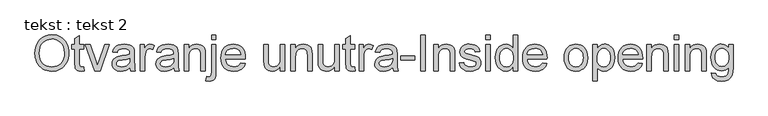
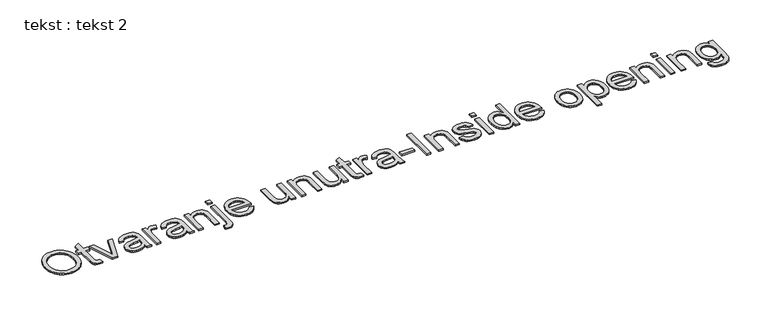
"""IFC4 building model written with IfcOpenShell, lengths in millimetres: proxy geometry, tekst : tekst 2."""

from ifc_helpers import new_model, si_unit, origin, origin_with_axes, place, context, project, spatial, polyline, outline, extrude, source, transform, mapped, element, save


def tekst_tekst_2_4f43fea5(model_context):
    return source(origin(), model_context, "Body", "SweptSolid", [
        extrude(outline(polyline([(-1365.7671405, 247.5300196), (-1361.5824828, 306.4447883), (-1349.0285097, 358.5997253), (-1328.1052212, 403.9948307), (-1298.8126173, 442.6301044), (-1262.9058018, 473.4785425), (-1222.1398782, 495.5131412), (-1176.5148466, 508.7339004), (-1126.0307069, 513.1408201), (-1092.2392128, 511.0714839), (-1060.149173, 504.8634752), (-1029.7605873, 494.5167941), (-1001.0734559, 480.0314405), (-974.8925206, 461.8442744), (-952.0225232, 440.3921556), (-932.4634638, 415.675084), (-916.2153424, 387.6930597), (-903.4467714, 357.0822121), (-894.3263636, 324.4786702), (-888.854119, 289.8824343), (-887.0300374, 253.2935042), (-888.9499216, 216.221729), (-894.7095741, 181.1579763), (-904.3089949, 148.1022462), (-917.748184, 117.0545386), (-934.7090768, 88.8349239), (-954.8736087, 64.2634723), (-978.2417796, 43.3401838), (-1004.8135895, 26.0650585), (-1033.5428741, 12.5453952), (-1063.3834688, 2.8884928), (-1094.3353738, -2.9056486), (-1126.3985889, -4.8370291), (-1160.7802271, -2.7025471), (-1193.2917984, 3.7008989), (-1223.9333029, 14.3733088), (-1252.7047406, 29.3146828), (-1278.8550191, 47.946373), (-1301.633046, 69.6897317), (-1321.0388212, 94.544759), (-1337.0723448, 122.5114549), (-1349.6263179, 152.4670128), (-1358.5934416, 183.2886262), (-1363.9737157, 214.9762951), (-1365.7671405, 247.5300196)]), holes=[polyline([(-1302.9819466, 246.9168829), (-1299.8434533, 205.292568), (-1290.4279735, 168.3434201), (-1274.7355072, 136.0694393), (-1252.7660543, 108.4706254), (-1226.0601207, 86.3670489), (-1196.1582123, 70.5787799), (-1163.060329, 61.1058185), (-1126.7664709, 57.9481647), (-1089.851812, 61.1364754), (-1056.3630541, 70.7014072), (-1026.3001973, 86.6429604), (-999.6632416, 108.9611347), (-977.8547371, 137.1424284), (-962.2772338, 170.6733394), (-952.9307319, 209.5538678), (-949.8152312, 253.7840135), (-955.1495202, 309.3648516), (-971.152387, 357.4041088), (-983.0510702, 378.2929083), (-997.4099644, 396.6908402), (-1014.2290693, 412.5979044), (-1033.5083851, 426.0141009), (-1054.6501036, 436.6635183), (-1077.0564163, 444.2702449), (-1100.7273235, 448.8342809), (-1125.6628249, 450.3556263), (-1160.6959208, 447.4240666), (-1193.1998279, 438.6293877), (-1223.1745463, 423.9715894), (-1250.620076, 403.4506719), (-1273.5283944, 376.0779522), (-1289.891479, 340.8647474), (-1299.7093297, 297.8110577), (-1302.9819466, 246.9168829)])]), origin_with_axes(), (0.0, 0.0, 1.0), 20.0),
        extrude(outline(polyline([(-675.1300082, 55.3729908), (-667.2818589, 1.1717101), (-714.248127, -4.8370291), (-744.3837938, -2.2311983), (-766.8552523, 5.5862941), (-782.7354918, 17.6344294), (-793.0975013, 32.9321891), (-798.7996722, 59.2050949), (-800.7003959, 104.1786688), (-800.7003959, 309.0889401), (-847.7892912, 309.0889401), (-847.7892912, 371.874134), (-800.7003959, 371.874134), (-800.7003959, 461.5147134), (-737.915202, 498.4255403), (-737.915202, 371.874134), (-675.1300082, 371.874134), (-675.1300082, 309.0889401), (-737.915202, 309.0889401), (-737.915202, 106.0180788), (-734.6042641, 73.6444632), (-723.8743725, 62.1788077), (-702.4759032, 57.9481647), (-675.1300082, 55.3729908)])), origin_with_axes(), (0.0, 0.0, 1.0), 20.0),
        extrude(outline(polyline([(-521.8458435, 3.0111201), (-651.5855605, 371.874134), (-585.1215467, 371.874134), (-506.5174271, 150.8996822), (-482.850352, 76.5875192), (-459.6737863, 146.7303529), (-380.5791574, 371.874134), (-314.1151436, 371.874134), (-442.2607052, 3.0111201), (-521.8458435, 3.0111201)])), origin_with_axes(), (0.0, 0.0, 1.0), 20.0),
        extrude(outline(polyline([(-23.7336221, 50.1000155), (-53.7313331, 24.3789327), (-84.6180923, 7.5483314), (-117.0990067, -1.740689), (-151.8791837, -4.8370291), (-179.8343832, -2.9746265), (-204.3483533, 2.6125813), (-225.4210938, 11.9245943), (-243.0526048, 24.9614125), (-256.9746391, 40.8953014), (-266.9189493, 58.8985266), (-272.8855354, 78.9710879), (-274.8743974, 101.1129855), (-271.8700278, 127.1406367), (-262.8569189, 150.7770549), (-248.9540452, 171.0105646), (-231.280381, 186.8294904), (-210.5103767, 198.7856552), (-187.3184826, 207.4308821), (-132.9945746, 216.8731867), (-68.7991665, 226.8060005), (-24.101504, 238.455597), (-23.7336221, 252.4351129), (-28.0562355, 280.4554582), (-41.0240758, 298.7882442), (-54.0992151, 306.728364), (-70.0254398, 312.3998781), (-110.4311456, 316.9370893), (-147.8324818, 313.9173913), (-173.9521034, 304.8582972), (-191.7637233, 288.104338), (-204.2410544, 262.0000447), (-267.0262482, 269.848194), (-256.1277441, 304.1838468), (-239.8642942, 331.1618598), (-216.7183854, 351.7939084), (-185.1725043, 367.091668), (-146.59088, 376.5646294), (-102.3377417, 379.7222832), (-59.8933565, 376.9325114), (-26.2474824, 368.563196), (-0.8789531, 355.9785661), (16.7333974, 340.5428507), (28.4136508, 321.4589722), (35.9858885, 297.9298529), (39.0515718, 242.9928083), (39.0515718, 164.879198), (42.2398824, 55.8021864), (46.9610347, 28.8395019), (54.7478703, 3.0111201), (-8.0373236, 3.0111201), (-18.0927648, 24.8387852), (-23.7336221, 50.1000155)]), holes=[polyline([(-23.7336221, 175.6704032), (-65.9174242, 165.2164232), (-125.0237981, 156.4179121), (-179.0411377, 146.2398436), (-193.0972956, 139.2807425), (-203.5052904, 129.6851538), (-209.9432253, 118.1888414), (-212.0892036, 105.5275694), (-207.4140366, 86.8575582), (-193.3885355, 71.5597986), (-170.3192687, 61.3510732), (-138.5128045, 57.9481647), (-104.7902883, 61.7036268), (-74.9918467, 72.9700129), (-50.8342624, 89.5706879), (-34.0343179, 109.3290167), (-26.5847075, 129.6851538), (-24.101504, 157.8894401), (-23.7336221, 175.6704032)])]), origin_with_axes(), (0.0, 0.0, 1.0), 20.0),
        extrude(outline(polyline([(125.3812133, 3.0111201), (125.3812133, 371.874134), (180.3182579, 371.874134), (180.3182579, 317.3049713), (200.6130813, 348.9428229), (219.3137494, 367.5821773), (238.0757312, 376.6872567), (258.5544956, 379.7222832), (289.8244652, 374.8785036), (321.5849441, 360.3471648), (300.6156704, 304.0612195), (278.5427507, 313.7181219), (256.4698309, 316.9370893), (237.7231776, 313.8407492), (220.9692184, 304.5517288), (207.4342267, 289.7751354), (198.3444757, 270.216076), (190.7109243, 235.1446591), (188.1664072, 196.8849316), (188.1664072, 3.0111201), (125.3812133, 3.0111201)])), origin_with_axes(), (0.0, 0.0, 1.0), 20.0),
        extrude(outline(polyline([(596.2701672, 50.1000155), (566.2724561, 24.3789327), (535.385697, 7.5483314), (502.9047825, -1.740689), (468.1246055, -4.8370291), (440.169406, -2.9746265), (415.6554359, 2.6125813), (394.5826954, 11.9245943), (376.9511844, 24.9614125), (363.0291501, 40.8953014), (353.0848399, 58.8985266), (347.1182538, 78.9710879), (345.1293918, 101.1129855), (348.1337614, 127.1406367), (357.1468703, 150.7770549), (371.049744, 171.0105646), (388.7234082, 186.8294904), (409.4934125, 198.7856552), (432.6853066, 207.4308821), (487.0092146, 216.8731867), (551.2046227, 226.8060005), (595.9022852, 238.455597), (596.2701672, 252.4351129), (591.9475537, 280.4554582), (578.9797134, 298.7882442), (565.9045741, 306.728364), (549.9783494, 312.3998781), (509.5726436, 316.9370893), (472.1713074, 313.9173913), (446.0516858, 304.8582972), (428.2400659, 288.104338), (415.7627349, 262.0000447), (352.977541, 269.848194), (363.8760451, 304.1838468), (380.139495, 331.1618598), (403.2854038, 351.7939084), (434.8312849, 367.091668), (473.4129092, 376.5646294), (517.6660475, 379.7222832), (560.1104327, 376.9325114), (593.7563069, 368.563196), (619.1248361, 355.9785661), (636.7371866, 340.5428507), (648.41744, 321.4589722), (655.9896777, 297.9298529), (659.055361, 242.9928083), (659.055361, 164.879198), (662.2436716, 55.8021864), (666.9648239, 28.8395019), (674.7516595, 3.0111201), (611.9664656, 3.0111201), (601.9110244, 24.8387852), (596.2701672, 50.1000155)]), holes=[polyline([(596.2701672, 175.6704032), (554.086365, 165.2164232), (494.9799911, 156.4179121), (440.9626515, 146.2398436), (426.9064936, 139.2807425), (416.4984988, 129.6851538), (410.0605639, 118.1888414), (407.9145856, 105.5275694), (412.5897526, 86.8575582), (426.6152537, 71.5597986), (449.6845205, 61.3510732), (481.4909847, 57.9481647), (515.2135009, 61.7036268), (545.0119425, 72.9700129), (569.1695268, 89.5706879), (585.9694713, 109.3290167), (593.4190817, 129.6851538), (595.9022852, 157.8894401), (596.2701672, 175.6704032)])]), origin_with_axes(), (0.0, 0.0, 1.0), 20.0),
        extrude(outline(polyline([(745.3850025, 3.0111201), (745.3850025, 371.874134), (808.1701964, 371.874134), (808.1701964, 320.3706546), (829.982533, 346.3369921), (856.1787967, 364.884376), (886.7589876, 376.0128064), (921.7231056, 379.7222832), (952.6711784, 376.733242), (981.0134204, 367.7661183), (1004.6498386, 353.9398867), (1021.4804399, 336.3735214), (1032.9001102, 315.1130078), (1040.3037353, 290.204331), (1043.6146733, 229.5038018), (1043.6146733, 3.0111201), (980.8294794, 3.0111201), (980.8294794, 221.0425159), (979.0207263, 253.508102), (973.5944669, 276.5926972), (963.5850109, 293.1320586), (948.0266682, 305.9619432), (928.0843984, 314.1933028), (904.9231611, 316.9370893), (885.8584431, 315.3965835), (868.15029, 310.7750659), (851.7987017, 303.0725366), (836.8036783, 292.2889957), (824.27653, 277.1981697), (815.3285669, 256.5737853), (809.959789, 230.4158426), (808.1701964, 198.7243416), (808.1701964, 3.0111201), (745.3850025, 3.0111201)])), origin_with_axes(), (0.0, 0.0, 1.0), 20.0),
        extrude(outline(polyline([(1050.8496859, -138.5008207), (1064.0934377, -78.7813101), (1092.9108606, -83.3185214), (1109.266281, -80.2068529), (1120.8085786, -70.8718472), (1127.6603808, -49.0901674), (1129.9443148, -8.6384764), (1129.9443148, 371.874134), (1192.7295087, 371.874134), (1192.7295087, -16.7318803), (1188.2842679, -74.3667262), (1182.7277169, -95.4586273), (1174.9485456, -111.4001804), (1161.7967642, -126.5829769), (1144.9048493, -137.4278315), (1124.2728007, -143.9347443), (1099.9006185, -146.1037153), (1074.9459565, -144.2029916), (1050.8496859, -138.5008207)])), origin_with_axes(), (0.0, 0.0, 1.0), 20.0),
        extrude(outline(polyline([(1129.9443148, 442.507477), (1129.9443148, 505.2926709), (1192.7295087, 505.2926709), (1192.7295087, 442.507477), (1129.9443148, 442.507477)])), origin_with_axes(), (0.0, 0.0, 1.0), 20.0),
        extrude(outline(polyline([(1545.16046, 112.8852093), (1606.7193806, 105.0370601), (1597.2809081, 80.3813022), (1584.5391619, 58.6532719), (1568.494142, 39.8529691), (1549.1458483, 23.9803938), (1526.6935503, 11.3727713), (1501.3365174, 2.3673266), (1473.0747495, -3.0359402), (1441.9082467, -4.8370291), (1402.9510763, -1.7291927), (1368.2398772, 7.5943166), (1337.7746495, 23.1334988), (1311.5553931, 44.8883539), (1290.4711563, 72.2534094), (1275.4109871, 104.6231929), (1266.3748856, 141.9977043), (1263.3628517, 184.3769437), (1266.4055424, 228.1932222), (1275.5336144, 266.8131675), (1290.7470678, 300.2367796), (1312.0459024, 328.4640585), (1338.1961809, 350.8895318), (1367.9639657, 366.907727), (1401.3492568, 376.5186441), (1438.3520541, 379.7222832), (1474.1630671, 376.5263084), (1506.548179, 366.9383839), (1535.5073898, 350.9585097), (1561.0406995, 328.5866859), (1581.8835138, 300.4207206), (1596.7712383, 267.0584222), (1605.703873, 228.4997905), (1608.6814179, 184.7448257), (1608.3135359, 167.822254), (1326.1480456, 167.822254), (1329.7847124, 142.7679572), (1337.0158929, 120.8253291), (1347.841587, 101.9943695), (1362.2617948, 86.2750784), (1379.4794386, 73.8820537), (1398.6974407, 65.0298931), (1419.9158012, 59.7185968), (1443.13452, 57.9481647), (1476.5504679, 61.2284459), (1504.6934406, 71.0692892), (1527.5634379, 88.0838315), (1545.16046, 112.8852093)]), holes=[polyline([(1326.1480456, 230.6074478), (1545.896224, 230.6074478), (1537.4042813, 263.778141), (1520.757621, 287.5065297), (1503.6357798, 300.3823996), (1484.1533625, 309.5794494), (1462.310369, 315.0976794), (1438.1067994, 316.9370893), (1395.7850416, 311.0663058), (1377.3717813, 303.7278265), (1360.7902668, 293.4539553), (1346.8758967, 280.7198733), (1336.4640699, 266.0007614), (1329.5547861, 249.2966196), (1326.1480456, 230.6074478)])]), origin_with_axes(), (0.0, 0.0, 1.0), 20.0),
        extrude(outline(polyline([(2103.1148194, 3.0111201), (2103.1148194, 66.4094506), (2080.3981062, 35.2391157), (2053.9412594, 12.9745908), (2023.7442789, -0.3841241), (1989.8071649, -4.8370291), (1959.226974, -1.7100321), (1930.7621047, 7.6709587), (1906.8804318, 21.7731019), (1890.0498305, 39.0635557), (1878.7221308, 60.0634862), (1871.3491624, 85.2940597), (1867.6703425, 143.6646696), (1867.6703425, 371.874134), (1930.4555363, 371.874134), (1930.4555363, 173.2178566), (1934.2569836, 109.2063894), (1943.4080482, 87.8539053), (1959.0890183, 71.6211122), (1980.2575614, 61.3664016), (2005.8713453, 57.9481647), (2032.9566572, 61.4430437), (2058.2945297, 71.9276806), (2079.1871613, 88.4363851), (2092.9367509, 110.0034671), (2100.5703023, 139.5413256), (2103.1148194, 179.9623598), (2103.1148194, 371.874134), (2165.9000132, 371.874134), (2165.9000132, 3.0111201), (2103.1148194, 3.0111201)])), origin_with_axes(), (0.0, 0.0, 1.0), 20.0),
        extrude(outline(polyline([(2252.2296548, 3.0111201), (2252.2296548, 371.874134), (2315.0148486, 371.874134), (2315.0148486, 320.3706546), (2336.8271852, 346.3369921), (2363.023449, 364.884376), (2393.6036398, 376.0128064), (2428.5677578, 379.7222832), (2459.5158306, 376.733242), (2487.8580727, 367.7661183), (2511.4944909, 353.9398867), (2528.3250922, 336.3735214), (2539.7447624, 315.1130078), (2547.1483876, 290.204331), (2550.4593255, 229.5038018), (2550.4593255, 3.0111201), (2487.6741317, 3.0111201), (2487.6741317, 221.0425159), (2485.8653785, 253.508102), (2480.4391191, 276.5926972), (2470.4296632, 293.1320586), (2454.8713205, 305.9619432), (2434.9290506, 314.1933028), (2411.7678133, 316.9370893), (2392.7030954, 315.3965835), (2374.9949422, 310.7750659), (2358.643354, 303.0725366), (2343.6483306, 292.2889957), (2331.1211822, 277.1981697), (2322.1732191, 256.5737853), (2316.8044412, 230.4158426), (2315.0148486, 198.7243416), (2315.0148486, 3.0111201), (2252.2296548, 3.0111201)])), origin_with_axes(), (0.0, 0.0, 1.0), 20.0),
        extrude(outline(polyline([(2872.233444, 3.0111201), (2872.233444, 66.4094506), (2849.5167308, 35.2391157), (2823.059884, 12.9745908), (2792.8629035, -0.3841241), (2758.9257895, -4.8370291), (2728.3455986, -1.7100321), (2699.8807292, 7.6709587), (2675.9990564, 21.7731019), (2659.1684551, 39.0635557), (2647.8407553, 60.0634862), (2640.467787, 85.2940597), (2636.7889671, 143.6646696), (2636.7889671, 371.874134), (2699.5741609, 371.874134), (2699.5741609, 173.2178566), (2703.3756082, 109.2063894), (2712.5266728, 87.8539053), (2728.2076429, 71.6211122), (2749.376186, 61.3664016), (2774.9899699, 57.9481647), (2802.0752818, 61.4430437), (2827.4131542, 71.9276806), (2848.3057859, 88.4363851), (2862.0553754, 110.0034671), (2869.6889268, 139.5413256), (2872.233444, 179.9623598), (2872.233444, 371.874134), (2935.0186378, 371.874134), (2935.0186378, 3.0111201), (2872.233444, 3.0111201)])), origin_with_axes(), (0.0, 0.0, 1.0), 20.0),
        extrude(outline(polyline([(3154.7668163, 55.3729908), (3162.6149655, 1.1717101), (3115.6486975, -4.8370291), (3085.5130307, -2.2311983), (3063.0415721, 5.5862941), (3047.1613327, 17.6344294), (3036.7993232, 32.9321891), (3031.0971522, 59.2050949), (3029.1964286, 104.1786688), (3029.1964286, 309.0889401), (2982.1075332, 309.0889401), (2982.1075332, 371.874134), (3029.1964286, 371.874134), (3029.1964286, 461.5147134), (3091.9816224, 498.4255403), (3091.9816224, 371.874134), (3154.7668163, 371.874134), (3154.7668163, 309.0889401), (3091.9816224, 309.0889401), (3091.9816224, 106.0180788), (3095.2925604, 73.6444632), (3106.0224519, 62.1788077), (3127.4209213, 57.9481647), (3154.7668163, 55.3729908)])), origin_with_axes(), (0.0, 0.0, 1.0), 20.0),
        extrude(outline(polyline([(3217.5520101, 3.0111201), (3217.5520101, 371.874134), (3272.4890547, 371.874134), (3272.4890547, 317.3049713), (3292.7838781, 348.9428229), (3311.4845462, 367.5821773), (3330.246528, 376.6872567), (3350.7252924, 379.7222832), (3381.995262, 374.8785036), (3413.7557409, 360.3471648), (3392.7864672, 304.0612195), (3370.7135474, 313.7181219), (3348.6406277, 316.9370893), (3329.8939744, 313.8407492), (3313.1400152, 304.5517288), (3299.6050235, 289.7751354), (3290.5152725, 270.216076), (3282.8817211, 235.1446591), (3280.337204, 196.8849316), (3280.337204, 3.0111201), (3217.5520101, 3.0111201)])), origin_with_axes(), (0.0, 0.0, 1.0), 20.0),
        extrude(outline(polyline([(3688.4409639, 50.1000155), (3658.4432529, 24.3789327), (3627.5564937, 7.5483314), (3595.0755793, -1.740689), (3560.2954023, -4.8370291), (3532.3402028, -2.9746265), (3507.8262327, 2.6125813), (3486.7534922, 11.9245943), (3469.1219812, 24.9614125), (3455.1999469, 40.8953014), (3445.2556367, 58.8985266), (3439.2890506, 78.9710879), (3437.3001886, 101.1129855), (3440.3045582, 127.1406367), (3449.3176671, 150.7770549), (3463.2205408, 171.0105646), (3480.894205, 186.8294904), (3501.6642093, 198.7856552), (3524.8561034, 207.4308821), (3579.1800114, 216.8731867), (3643.3754195, 226.8060005), (3688.0730819, 238.455597), (3688.4409639, 252.4351129), (3684.1183505, 280.4554582), (3671.1505102, 298.7882442), (3658.0753709, 306.728364), (3642.1491462, 312.3998781), (3601.7434404, 316.9370893), (3564.3421042, 313.9173913), (3538.2224826, 304.8582972), (3520.4108626, 288.104338), (3507.9335316, 262.0000447), (3445.1483378, 269.848194), (3456.0468419, 304.1838468), (3472.3102918, 331.1618598), (3495.4562006, 351.7939084), (3527.0020817, 367.091668), (3565.583706, 376.5646294), (3609.8368443, 379.7222832), (3652.2812295, 376.9325114), (3685.9271036, 368.563196), (3711.2956329, 355.9785661), (3728.9079834, 340.5428507), (3740.5882368, 321.4589722), (3748.1604745, 297.9298529), (3751.2261578, 242.9928083), (3751.2261578, 164.879198), (3754.4144684, 55.8021864), (3759.1356207, 28.8395019), (3766.9224562, 3.0111201), (3704.1372624, 3.0111201), (3694.0818212, 24.8387852), (3688.4409639, 50.1000155)]), holes=[polyline([(3688.4409639, 175.6704032), (3646.2571618, 165.2164232), (3587.1507879, 156.4179121), (3533.1334483, 146.2398436), (3519.0772904, 139.2807425), (3508.6692956, 129.6851538), (3502.2313607, 118.1888414), (3500.0853824, 105.5275694), (3504.7605494, 86.8575582), (3518.7860505, 71.5597986), (3541.8553173, 61.3510732), (3573.6617814, 57.9481647), (3607.3842977, 61.7036268), (3637.1827393, 72.9700129), (3661.3403236, 89.5706879), (3678.1402681, 109.3290167), (3685.5898785, 129.6851538), (3688.0730819, 157.8894401), (3688.4409639, 175.6704032)])]), origin_with_axes(), (0.0, 0.0, 1.0), 20.0),
        extrude(outline(polyline([(3806.1632024, 152.1259555), (3806.1632024, 214.9111493), (4002.3669332, 214.9111493), (4002.3669332, 152.1259555), (3806.1632024, 152.1259555)])), origin_with_axes(), (0.0, 0.0, 1.0), 20.0),
        extrude(outline(polyline([(4088.6965747, 3.0111201), (4088.6965747, 505.2926709), (4151.4817685, 505.2926709), (4151.4817685, 3.0111201), (4088.6965747, 3.0111201)])), origin_with_axes(), (0.0, 0.0, 1.0), 20.0),
        extrude(outline(polyline([(4269.204007, 3.0111201), (4269.204007, 371.874134), (4331.9892008, 371.874134), (4331.9892008, 320.3706546), (4353.8015375, 346.3369921), (4379.9978012, 364.884376), (4410.5779921, 376.0128064), (4445.54211, 379.7222832), (4476.4901829, 376.733242), (4504.8324249, 367.7661183), (4528.4688431, 353.9398867), (4545.2994444, 336.3735214), (4556.7191146, 315.1130078), (4564.1227398, 290.204331), (4567.4336778, 229.5038018), (4567.4336778, 3.0111201), (4504.6484839, 3.0111201), (4504.6484839, 221.0425159), (4502.8397308, 253.508102), (4497.4134713, 276.5926972), (4487.4040154, 293.1320586), (4471.8456727, 305.9619432), (4451.9034029, 314.1933028), (4428.7421656, 316.9370893), (4409.6774476, 315.3965835), (4391.9692945, 310.7750659), (4375.6177062, 303.0725366), (4360.6226828, 292.2889957), (4348.0955344, 277.1981697), (4339.1475713, 256.5737853), (4333.7787935, 230.4158426), (4331.9892008, 198.7243416), (4331.9892008, 3.0111201), (4269.204007, 3.0111201)])), origin_with_axes(), (0.0, 0.0, 1.0), 20.0),
        extrude(outline(polyline([(4630.2188716, 112.8852093), (4693.0040654, 120.7333586), (4702.9062225, 93.8779729), (4722.0667431, 74.1349725), (4750.6082545, 61.9948667), (4788.6533842, 57.9481647), (4826.2386614, 61.6576415), (4852.6648513, 72.7860719), (4868.2998361, 88.911566), (4873.5114977, 107.6122341), (4868.2691793, 123.6151009), (4852.542224, 135.8165204), (4787.9176202, 153.7201108), (4730.6199994, 170.290129), (4693.3719474, 184.4382574), (4669.4442893, 199.8739728), (4652.1078503, 220.3067519), (4641.5772282, 244.4336795), (4638.0670208, 270.9518399), (4640.8874495, 295.2780369), (4649.3487353, 317.734167), (4662.6844577, 337.4311822), (4680.1281956, 353.4800342), (4697.4646346, 363.5814606), (4720.0433921, 372.058075), (4746.1476853, 377.8062311), (4774.0607317, 379.7222832), (4814.92629, 376.6412715), (4850.4575594, 367.3982363), (4879.0297277, 352.8975544), (4899.0179827, 334.0436021), (4912.2617346, 309.4414937), (4920.6003931, 277.6963432), (4857.8151993, 269.848194), (4849.890408, 289.6065228), (4834.2094379, 304.4904152), (4810.619005, 313.8254208), (4778.965825, 316.9370893), (4742.9133895, 313.9633765), (4718.8784324, 305.0422382), (4705.3587691, 292.1663683), (4700.8522147, 277.3284612), (4702.7222815, 267.6715588), (4708.3324819, 259.0569888), (4717.9280706, 251.3621237), (4731.7543023, 245.2001003), (4785.8329556, 231.8337211), (4877.9873953, 202.2805342), (4902.3289207, 188.1477342), (4920.7843341, 168.8032726), (4932.4186022, 144.1858358), (4936.2966916, 114.23411), (4931.7441519, 83.2707087), (4918.0865328, 54.1467175), (4895.8450005, 29.1460702), (4865.5407212, 10.552701), (4828.9364627, -0.9895966), (4787.7949929, -4.8370291), (4754.0034988, -2.9822907), (4724.4886329, 2.5819245), (4699.2503952, 11.8556164), (4678.2887856, 24.8387852), (4661.1669444, 41.470117), (4647.4480117, 61.6882984), (4637.1319874, 85.4933291), (4630.2188716, 112.8852093)])), origin_with_axes(), (0.0, 0.0, 1.0), 20.0),
        extrude(outline(polyline([(5006.9300347, 3.0111201), (5006.9300347, 371.874134), (5069.7152285, 371.874134), (5069.7152285, 3.0111201), (5006.9300347, 3.0111201)])), origin_with_axes(), (0.0, 0.0, 1.0), 20.0),
        extrude(outline(polyline([(5006.9300347, 442.507477), (5006.9300347, 505.2926709), (5069.7152285, 505.2926709), (5069.7152285, 442.507477), (5006.9300347, 442.507477)])), origin_with_axes(), (0.0, 0.0, 1.0), 20.0),
        extrude(outline(polyline([(5391.4893469, 3.0111201), (5391.4893469, 62.2401213), (5372.7043726, 32.893868), (5349.9493383, 11.9322585), (5323.2242442, -0.6447072), (5292.5290902, -4.8370291), (5251.9394434, 1.2330238), (5214.7833619, 19.4431826), (5183.3294513, 48.5211886), (5159.8463173, 87.1947834), (5145.223008, 133.9004683), (5140.3485716, 187.074745), (5144.8397976, 239.5898999), (5158.3134757, 287.0160204), (5168.4149021, 308.1462425), (5180.7542774, 326.6553054), (5195.3316014, 342.543209), (5212.1468743, 355.8099535), (5250.1153619, 373.7442008), (5292.2838356, 379.7222832), (5323.0019822, 375.445655), (5350.1639362, 362.6157704), (5373.1872177, 342.9494121), (5391.4893469, 318.1633627), (5391.4893469, 505.2926709), (5454.2745408, 505.2926709), (5454.2745408, 3.0111201), (5391.4893469, 3.0111201)]), holes=[polyline([(5203.1337654, 187.3199997), (5204.9041975, 156.8739325), (5210.2154938, 130.5282167), (5219.0676543, 108.2828523), (5231.460679, 90.1378393), (5246.2602651, 76.0548567), (5262.3321098, 65.9955834), (5279.676213, 59.9600194), (5298.2925748, 57.9481647), (5316.997075, 59.8680489), (5334.2377115, 65.6277014), (5350.0144841, 75.2271222), (5364.327393, 88.6663113), (5376.2107478, 106.0525677), (5384.6988585, 127.4931902), (5389.7917248, 152.9881789), (5391.4893469, 182.5375338), (5389.761068, 214.934142), (5384.5762311, 242.7168968), (5375.9348363, 265.8857983), (5363.8368836, 284.4408464), (5349.2097422, 298.6579527), (5332.9807813, 308.8130286), (5315.1500008, 314.9060742), (5295.7174009, 316.9370893), (5276.7331571, 314.9865483), (5259.3890538, 309.1349254), (5243.6850912, 299.3822204), (5229.6212691, 285.7284334), (5218.0329862, 267.8746603), (5209.7556413, 245.521997), (5204.7892344, 218.6704435), (5203.1337654, 187.3199997)])]), origin_with_axes(), (0.0, 0.0, 1.0), 20.0),
        extrude(outline(polyline([(5806.7054922, 112.8852093), (5868.2644127, 105.0370601), (5858.8259403, 80.3813022), (5846.0841941, 58.6532719), (5830.0391741, 39.8529691), (5810.6908805, 23.9803938), (5788.2385824, 11.3727713), (5762.8815495, 2.3673266), (5734.6197816, -3.0359402), (5703.4532789, -4.8370291), (5664.4961084, -1.7291927), (5629.7849093, 7.5943166), (5599.3196816, 23.1334988), (5573.1004252, 44.8883539), (5552.0161884, 72.2534094), (5536.9560192, 104.6231929), (5527.9199177, 141.9977043), (5524.9078839, 184.3769437), (5527.9505745, 228.1932222), (5537.0786465, 266.8131675), (5552.2920999, 300.2367796), (5573.5909346, 328.4640585), (5599.7412131, 350.8895318), (5629.5089978, 366.907727), (5662.8942889, 376.5186441), (5699.8970862, 379.7222832), (5735.7080992, 376.5263084), (5768.0932111, 366.9383839), (5797.0524219, 350.9585097), (5822.5857316, 328.5866859), (5843.4285459, 300.4207206), (5858.3162704, 267.0584222), (5867.2489051, 228.4997905), (5870.22645, 184.7448257), (5869.858568, 167.822254), (5587.6930777, 167.822254), (5591.3297445, 142.7679572), (5598.560925, 120.8253291), (5609.3866191, 101.9943695), (5623.8068269, 86.2750784), (5641.0244707, 73.8820537), (5660.2424728, 65.0298931), (5681.4608333, 59.7185968), (5704.6795522, 57.9481647), (5738.0955001, 61.2284459), (5766.2384727, 71.0692892), (5789.1084701, 88.0838315), (5806.7054922, 112.8852093)]), holes=[polyline([(5587.6930777, 230.6074478), (5807.4412562, 230.6074478), (5798.9493134, 263.778141), (5782.3026532, 287.5065297), (5765.180812, 300.3823996), (5745.6983946, 309.5794494), (5723.8554012, 315.0976794), (5699.6518316, 316.9370893), (5657.3300737, 311.0663058), (5638.9168134, 303.7278265), (5622.3352989, 293.4539553), (5608.4209289, 280.7198733), (5598.009102, 266.0007614), (5591.0998183, 249.2966196), (5587.6930777, 230.6074478)])]), origin_with_axes(), (0.0, 0.0, 1.0), 20.0),
        extrude(outline(polyline([(6113.5190761, 187.442627), (6116.9143204, 235.213637), (6127.1000531, 276.3780994), (6144.0762744, 310.9360143), (6167.8429841, 338.8873817), (6191.7706422, 356.7526511), (6218.1815038, 369.5135578), (6247.0755688, 377.1701018), (6278.4528373, 379.7222832), (6313.0912264, 376.6144467), (6344.4110134, 367.2909374), (6372.4121982, 351.7517552), (6397.0947808, 329.9969002), (6417.2401521, 302.7621362), (6431.6297031, 270.7832274), (6440.2634336, 234.0601736), (6443.1413438, 192.592975), (6438.0523096, 129.1639876), (6431.6910167, 103.1286723), (6422.7852068, 80.8794758), (6411.4460107, 61.6614736), (6397.7845595, 44.7197413), (6381.8008532, 30.0542789), (6363.4948919, 17.6650863), (6322.7672893, 0.7884997), (6278.4528373, -4.8370291), (6243.3086105, -1.740689), (6211.6975836, 7.5483314), (6183.6197568, 23.030032), (6159.0751299, 44.7044129), (6139.1443564, 72.203592), (6124.9080896, 105.1596875), (6116.3663295, 143.5726991), (6113.5190761, 187.442627)]), holes=[polyline([(6176.30427, 187.5652544), (6178.1206873, 157.111523), (6183.5699394, 130.7428145), (6192.6520262, 108.4591291), (6205.3669476, 90.2604666), (6220.8333198, 76.1238346), (6238.1697588, 66.0262402), (6257.3762647, 59.9676836), (6278.4528373, 57.9481647), (6299.422111, 59.9791799), (6318.5519748, 66.0722255), (6335.8424286, 76.2273014), (6351.2934724, 90.4444076), (6364.0083938, 108.823179), (6373.0904806, 131.4632501), (6378.5397326, 158.364621), (6380.35615, 189.5272917), (6378.5282363, 219.0153329), (6373.0444953, 244.6942625), (6363.904927, 266.5640807), (6351.1095314, 284.6247874), (6335.601006, 298.7614195), (6318.3220485, 308.8590139), (6299.272659, 314.9175705), (6278.4528373, 316.9370893), (6257.3762647, 314.9252347), (6238.1697588, 308.8896707), (6220.8333198, 298.8303974), (6205.3669476, 284.7474148), (6192.6520262, 266.6024018), (6183.5699394, 244.3570374), (6178.1206873, 218.0113216), (6176.30427, 187.5652544)])]), origin_with_axes(), (0.0, 0.0, 1.0), 20.0),
        extrude(outline(polyline([(6513.7746869, -138.255566), (6513.7746869, 371.874134), (6576.5598807, 371.874134), (6576.5598807, 310.3152134), (6597.0386451, 340.6808064), (6619.9699562, 362.3705157), (6646.7027145, 375.3843413), (6678.5858207, 379.7222832), (6700.4824637, 378.20477), (6721.0455344, 373.6522303), (6740.2750328, 366.0646641), (6758.170959, 355.4420715), (6774.3424384, 342.0603639), (6788.3985963, 326.1954529), (6810.1649477, 287.0160204), (6823.316729, 240.7548595), (6827.7006561, 190.2630557), (6822.7495776, 136.5676128), (6807.896342, 88.543684), (6796.8752106, 67.2678419), (6783.6161304, 48.6284875), (6768.1191013, 32.6256207), (6750.3841235, 19.2592416), (6711.6798719, 1.1870386), (6670.9829262, -4.8370291), (6642.119518, -0.8056556), (6616.3524499, 11.288465), (6594.2948586, 29.544609), (6576.5598807, 52.0620528), (6576.5598807, -138.255566), (6513.7746869, -138.255566)]), holes=[polyline([(6576.5598807, 184.4995711), (6578.2575029, 154.241277), (6583.3503692, 128.2136258), (6591.8384799, 106.4166176), (6603.7218347, 88.8502523), (6618.0270794, 75.330589), (6633.7808594, 65.6736866), (6650.9831748, 59.8795452), (6669.6340255, 57.9481647), (6688.5531235, 59.9485231), (6706.0696715, 65.9495981), (6722.1836693, 75.9513899), (6736.895117, 89.9538983), (6749.154018, 108.1563929), (6757.910376, 130.7581429), (6763.1641907, 157.7591486), (6764.9154623, 189.1594097), (6763.2063438, 219.1571207), (6758.0789885, 245.1387866), (6749.5333964, 267.1044074), (6737.5695673, 285.0539831), (6723.2298337, 299.0028421), (6707.5565279, 308.9663128), (6690.5496498, 314.9443952), (6672.2091995, 316.9370893), (6653.9262308, 314.8179358), (6636.7239154, 308.460475), (6620.6022534, 297.8647072), (6605.5612447, 283.0306321), (6592.873148, 264.1575193), (6583.8102217, 241.4446382), (6578.372466, 214.8919888), (6576.5598807, 184.4995711)])]), origin_with_axes(), (0.0, 0.0, 1.0), 20.0),
        extrude(outline(polyline([(7156.5871598, 112.8852093), (7218.1460803, 105.0370601), (7208.7076079, 80.3813022), (7195.9658617, 58.6532719), (7179.9208418, 39.8529691), (7160.5725481, 23.9803938), (7138.1202501, 11.3727713), (7112.7632171, 2.3673266), (7084.5014493, -3.0359402), (7053.3349465, -4.8370291), (7014.377776, -1.7291927), (6979.666577, 7.5943166), (6949.2013492, 23.1334988), (6922.9820929, 44.8883539), (6901.897856, 72.2534094), (6886.8376868, 104.6231929), (6877.8015853, 141.9977043), (6874.7895515, 184.3769437), (6877.8322422, 228.1932222), (6886.9603142, 266.8131675), (6902.1737675, 300.2367796), (6923.4726022, 328.4640585), (6949.6228807, 350.8895318), (6979.3906655, 366.907727), (7012.7759565, 376.5186441), (7049.7787539, 379.7222832), (7085.5897668, 376.5263084), (7117.9748787, 366.9383839), (7146.9340895, 350.9585097), (7172.4673993, 328.5866859), (7193.3102136, 300.4207206), (7208.197938, 267.0584222), (7217.1305727, 228.4997905), (7220.1081176, 184.7448257), (7219.7402356, 167.822254), (6937.5747453, 167.822254), (6941.2114122, 142.7679572), (6948.4425926, 120.8253291), (6959.2682867, 101.9943695), (6973.6884945, 86.2750784), (6990.9061383, 73.8820537), (7010.1241405, 65.0298931), (7031.342501, 59.7185968), (7054.5612198, 57.9481647), (7087.9771677, 61.2284459), (7116.1201403, 71.0692892), (7138.9901377, 88.0838315), (7156.5871598, 112.8852093)]), holes=[polyline([(6937.5747453, 230.6074478), (7157.3229238, 230.6074478), (7148.8309811, 263.778141), (7132.1843208, 287.5065297), (7115.0624796, 300.3823996), (7095.5800623, 309.5794494), (7073.7370688, 315.0976794), (7049.5334992, 316.9370893), (7007.2117413, 311.0663058), (6988.7984811, 303.7278265), (6972.2169666, 293.4539553), (6958.3025965, 280.7198733), (6947.8907696, 266.0007614), (6940.9814859, 249.2966196), (6937.5747453, 230.6074478)])]), origin_with_axes(), (0.0, 0.0, 1.0), 20.0),
        extrude(outline(polyline([(7282.8933115, 3.0111201), (7282.8933115, 371.874134), (7345.6785053, 371.874134), (7345.6785053, 320.3706546), (7367.490842, 346.3369921), (7393.6871057, 364.884376), (7424.2672965, 376.0128064), (7459.2314145, 379.7222832), (7490.1794874, 376.733242), (7518.5217294, 367.7661183), (7542.1581476, 353.9398867), (7558.9887489, 336.3735214), (7570.4084191, 315.1130078), (7577.8120443, 290.204331), (7581.1229822, 229.5038018), (7581.1229822, 3.0111201), (7518.3377884, 3.0111201), (7518.3377884, 221.0425159), (7516.5290353, 253.508102), (7511.1027758, 276.5926972), (7501.0933199, 293.1320586), (7485.5349772, 305.9619432), (7465.5927073, 314.1933028), (7442.4314701, 316.9370893), (7423.3667521, 315.3965835), (7405.658599, 310.7750659), (7389.3070107, 303.0725366), (7374.3119873, 292.2889957), (7361.7848389, 277.1981697), (7352.8368758, 256.5737853), (7347.468098, 230.4158426), (7345.6785053, 198.7243416), (7345.6785053, 3.0111201), (7282.8933115, 3.0111201)])), origin_with_axes(), (0.0, 0.0, 1.0), 20.0),
        extrude(outline(polyline([(7667.4526238, 3.0111201), (7667.4526238, 371.874134), (7730.2378176, 371.874134), (7730.2378176, 3.0111201), (7667.4526238, 3.0111201)])), origin_with_axes(), (0.0, 0.0, 1.0), 20.0),
        extrude(outline(polyline([(7667.4526238, 442.507477), (7667.4526238, 505.2926709), (7730.2378176, 505.2926709), (7730.2378176, 442.507477), (7667.4526238, 442.507477)])), origin_with_axes(), (0.0, 0.0, 1.0), 20.0),
        extrude(outline(polyline([(7824.4156084, 3.0111201), (7824.4156084, 371.874134), (7887.2008022, 371.874134), (7887.2008022, 320.3706546), (7909.0131389, 346.3369921), (7935.2094026, 364.884376), (7965.7895934, 376.0128064), (8000.7537114, 379.7222832), (8031.7017843, 376.733242), (8060.0440263, 367.7661183), (8083.6804445, 353.9398867), (8100.5110458, 336.3735214), (8111.930716, 315.1130078), (8119.3343412, 290.204331), (8122.6452791, 229.5038018), (8122.6452791, 3.0111201), (8059.8600853, 3.0111201), (8059.8600853, 221.0425159), (8058.0513322, 253.508102), (8052.6250727, 276.5926972), (8042.6156168, 293.1320586), (8027.0572741, 305.9619432), (8007.1150042, 314.1933028), (7983.953767, 316.9370893), (7964.889049, 315.3965835), (7947.1808959, 310.7750659), (7930.8293076, 303.0725366), (7915.8342842, 292.2889957), (7903.3071358, 277.1981697), (7894.3591727, 256.5737853), (7888.9903949, 230.4158426), (7887.2008022, 198.7243416), (7887.2008022, 3.0111201), (7824.4156084, 3.0111201)])), origin_with_axes(), (0.0, 0.0, 1.0), 20.0),
        extrude(outline(polyline([(8193.2786222, -28.3814768), (8256.0638161, -36.229626), (8262.9922603, -55.8499991), (8276.4199531, -69.3390056), (8302.8154863, -79.8236425), (8337.365737, -83.3185214), (8374.2152502, -79.36379), (8401.6224588, -67.4995956), (8420.6296952, -48.4923592), (8432.2792917, -23.1085015), (8435.6822002, 3.9001683), (8436.5712484, 50.1000155), (8415.6786167, 29.4986238), (8392.3640953, 14.783344), (8366.627684, 5.9541761), (8338.469383, 3.0111201), (8304.0455917, 6.4370212), (8273.7374802, 16.7147244), (8247.5450486, 33.8442298), (8225.4682968, 57.8255374), (8207.9517489, 86.5969751), (8195.4399289, 118.0968709), (8187.932837, 152.3252249), (8185.430473, 189.282037), (8189.921699, 239.9731103), (8203.3953771, 286.5868247), (8225.3763263, 326.088154), (8239.3788347, 342.0335392), (8255.3893657, 355.4420715), (8273.1511683, 366.0646641), (8292.4074915, 373.6522303), (8313.1583353, 378.20477), (8335.4036997, 379.7222832), (8364.7652814, 376.2887179), (8391.4137335, 365.988022), (8415.3490558, 348.8201956), (8436.5712484, 324.7852386), (8436.5712484, 371.874134), (8499.3564422, 371.874134), (8499.3564422, 53.4109535), (8495.0644856, -20.1194603), (8489.6995398, -47.4691874), (8482.1886158, -68.5419279), (8460.0083971, -100.6549604), (8427.8033941, -125.2570689), (8408.1178753, -134.3774767), (8386.2787139, -140.8920537), (8336.1394637, -146.1037153), (8305.3791639, -144.2681374), (8277.7228685, -138.7614038), (8253.1705775, -129.5835144), (8231.7222907, -116.7344693), (8214.397348, -100.19894), (8202.215089, -79.9615982), (8195.1755138, -56.0224438), (8193.2786222, -28.3814768)]), holes=[polyline([(8248.2156668, 193.5739936), (8249.8902963, 162.5301182), (8254.9141848, 135.985133), (8263.2873323, 113.939038), (8275.0097388, 96.3918332), (8289.261334, 83.0062936), (8305.2220477, 73.4451938), (8322.8918797, 67.7085339), (8342.2708303, 65.796314), (8361.4581756, 67.6970376), (8379.0437014, 73.3992085), (8395.0274076, 82.9028267), (8409.4092944, 96.2078922), (8421.2926492, 113.5826523), (8429.7807599, 135.2953542), (8434.8736262, 161.345998), (8436.5712484, 191.7345836), (8434.8238089, 220.8547428), (8429.5814905, 246.1657905), (8420.8442931, 267.6677267), (8408.6122167, 285.3605514), (8393.9199295, 299.1752868), (8377.8020996, 309.0429549), (8360.258727, 314.9635557), (8341.2898116, 316.9370893), (8322.6389609, 314.9942126), (8305.4366455, 309.1655822), (8289.6828655, 299.4511983), (8275.3776208, 285.8510607), (8263.4942659, 268.4264833), (8255.0061553, 247.2387797), (8249.913289, 222.2879498), (8248.2156668, 193.5739936)])]), origin_with_axes(), (0.0, 0.0, 1.0), 20.0),
    ])


if __name__ == "__main__":
    model = new_model("IFC4")
    model_context = context("Model", 3, world=origin())
    ifc_project = project(units=[si_unit("LENGTHUNIT", "METRE", prefix="MILLI")], contexts=[model_context])
    site = spatial("IfcSite", under=ifc_project)
    building = spatial("IfcBuilding", under=site)
    placement = place(None, origin())
    tekst_tekst_2_shape = tekst_tekst_2_4f43fea5(model_context)
    element("IfcBuildingElementProxy", 1, Name="tekst : tekst 2", ObjectType="tekst : tekst 2", at=placement, inside=building, context=model_context, shape_type="MappedRepresentation", body=[
        mapped(tekst_tekst_2_shape, transform((0.0, 0.0, 0.0), x_axis=(1.0, 0.0, 0.0), y_axis=(0.0, 1.0, 0.0), z_axis=(0.0, 0.0, 1.0))),
    ])
    save(model, "model.ifc")
